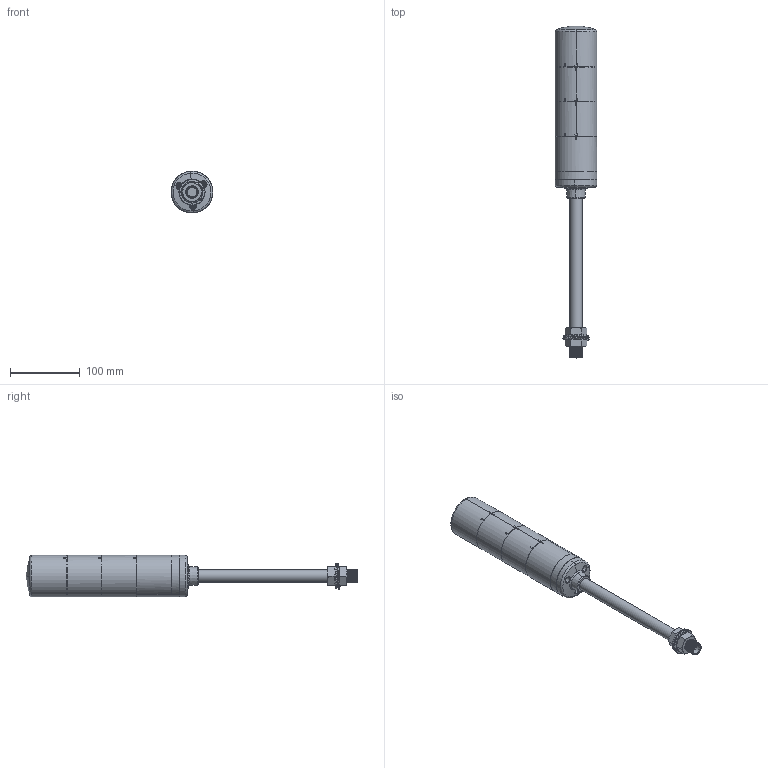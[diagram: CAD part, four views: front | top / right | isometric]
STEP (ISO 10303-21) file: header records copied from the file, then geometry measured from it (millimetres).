
FILE_DESCRIPTION (( 'STEP AP203' ), '1' );
FILE_NAME ('QKR572_3D00243 QTRA60L-3-24-RAG 3D紫賊_220928.STEP', '2022-09-28T08:59:21', ( 'QKR_NOTE119' ), ( '' ), 'SwSTEP 2.0', 'SolidWorks 2019', '' );
FILE_SCHEMA (( 'CONFIG_CONTROL_DESIGN' ));
Length unit declared in the file: millimetre
Products named in the file (1): QKR572_3D00243 QTRA60L-3-24-RAG 3D紫賊_220928
Bounding box: 60 x 477.5 x 60.3 mm (x, y, z)
Volume: 689604 mm3; surface area: 78008 mm2
Topology: 1 solids, 4 shells, 303 faces, 792 edges, 499 vertices
Faces by surface type: plane 119, cone 70, cylinder 69, torus 20, bspline 17, sphere 8
Entity records: 19664 total; most frequent: CARTESIAN_POINT 12656, ORIENTED_EDGE 1572, DIRECTION 1347, EDGE_CURVE 786, AXIS2_PLACEMENT_3D 575, VERTEX_POINT 499, EDGE_LOOP 321, FACE_OUTER_BOUND 303
